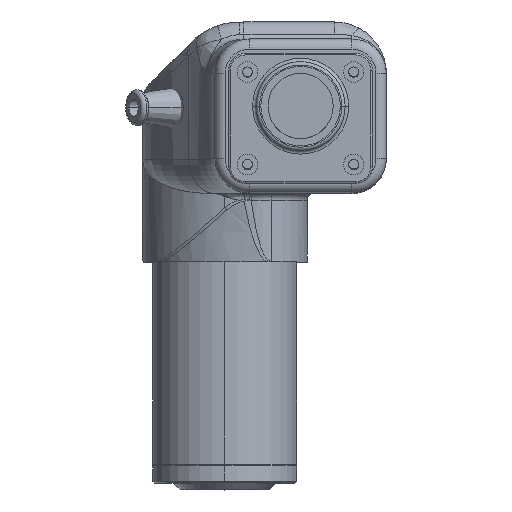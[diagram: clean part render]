
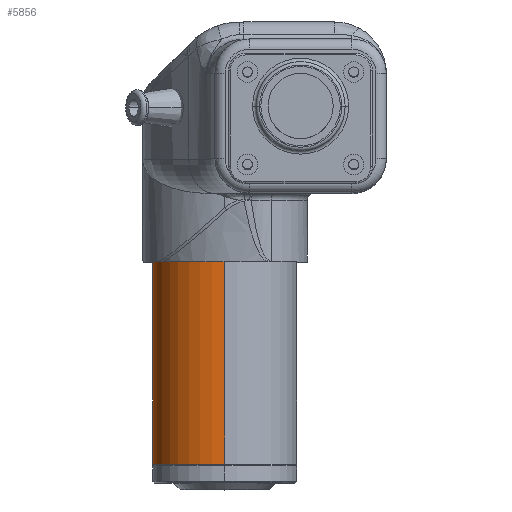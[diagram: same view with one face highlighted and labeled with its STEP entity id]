
A CAD part, top view. The second image highlights one B-rep face of the part: STEP entity #5856.
In plain terms, the highlighted cylindrical face has radius 21 mm (diameter 42 mm), a partial arc.
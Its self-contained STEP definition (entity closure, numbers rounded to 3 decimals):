
#5741=CARTESIAN_POINT('',(-29.159,-99.025,-143.));
#5742=DIRECTION('',(0.,-1.,0.));
#5743=DIRECTION('',(0.,0.,1.));
#5744=AXIS2_PLACEMENT_3D('',#5741,#5742,#5743);
#5788=DIRECTION('',(0.,-1.,0.));
#5789=VECTOR('',#5788,61.8);
#5790=CARTESIAN_POINT('',(-29.159,-37.225,-164.));
#5791=LINE('',#5790,#5789);
#5792=CARTESIAN_POINT('',(-29.159,-37.225,-143.));
#5793=DIRECTION('',(0.,1.,0.));
#5794=DIRECTION('',(0.,0.,-1.));
#5795=AXIS2_PLACEMENT_3D('',#5792,#5793,#5794);
#5797=DIRECTION('',(0.,1.,0.));
#5798=VECTOR('',#5797,61.8);
#5799=CARTESIAN_POINT('',(-29.159,-99.025,-122.));
#5800=LINE('',#5799,#5798);
#5801=CARTESIAN_POINT('',(-29.159,-37.225,-164.));
#5802=CARTESIAN_POINT('',(-29.159,-37.225,-122.));
#5803=VERTEX_POINT('',#5801);
#5804=VERTEX_POINT('',#5802);
#5807=CARTESIAN_POINT('',(-29.159,-99.025,-122.));
#5808=VERTEX_POINT('',#5807);
#5809=CARTESIAN_POINT('',(-29.159,-99.025,
-164.));
#5810=VERTEX_POINT('',#5809);
#5844=CARTESIAN_POINT('',(-29.159,-99.025,-143.));
#5845=DIRECTION('',(0.,1.,0.));
#5846=DIRECTION('',(0.,0.,1.));
#5847=AXIS2_PLACEMENT_3D('',#5844,#5845,#5846);
#5848=CYLINDRICAL_SURFACE('',#5847,21.);
#5849=ORIENTED_EDGE('',*,*,#5822,.F.);
#5851=ORIENTED_EDGE('',*,*,#5850,.T.);
#5852=ORIENTED_EDGE('',*,*,#5818,.F.);
#5853=ORIENTED_EDGE('',*,*,#5833,.T.);
#5854=EDGE_LOOP('',(#5849,#5851,#5852,#5853));
#5855=FACE_OUTER_BOUND('',#5854,.F.);
#5856=ADVANCED_FACE('',(#5855),#5848,.T.);
#5745=CIRCLE('',#5744,21.);
#5796=CIRCLE('',#5795,21.);
#5818=EDGE_CURVE('',#5808,#5804,#5800,.T.);
#5822=EDGE_CURVE('',#5803,#5810,#5791,.T.);
#5833=EDGE_CURVE('',#5808,#5810,#5745,.T.);
#5850=EDGE_CURVE('',#5803,#5804,#5796,.T.);
